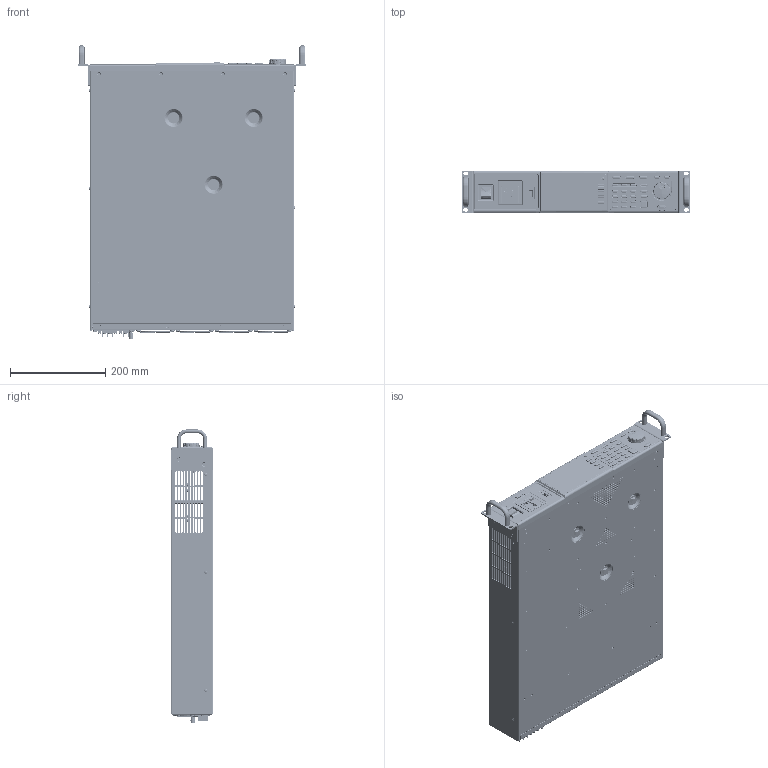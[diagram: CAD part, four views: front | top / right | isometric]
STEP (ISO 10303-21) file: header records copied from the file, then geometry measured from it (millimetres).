
FILE_DESCRIPTION((''),'2;1');
FILE_NAME('APS-1000W_ASM','2020-11-02T11:36:05',('benny_chen'),(''),'CREO PARAMETRIC BY PTC INC, 2019080','CREO PARAMETRIC BY PTC INC, 2019080','');
FILE_SCHEMA(('CONFIG_CONTROL_DESIGN'));
Products named in the file (89): ACSP_SKEL0001; ACSP_LO_SKEL0001; ACSP-LO-HP; S-M4-1_NUT; FH-M4-12; SO-M3-9; SO-M3-7; SO-M3-11; 62PS-710LO101-2_ASM; 62PS-710LO101-3; 62PS-710LO101-3_ASM; 62PS-710LO101-4; 62PS-710LO101-1_ASM; APS-DT-66-C11W-XX; APS7000-EMI_OUT_ASM; RJ-45; BNC-PCBTYPE-M; CONNECTOR_A-DIO-FS03; ECH350RM-04P; APS-PCB-ANALOG_ASM; 61PF-084220N1; APS-SCREW-M8XP1D25X80L; ACSP-LO-ASM_ASM; APS-1000W_FRONT_ASM_SKEL; ACSP-F-HP; SO-M3-3L; SO-M3-4; SO-M3-S5; 62PS-7K0FP1B1-4_ASM; APS-HP-SOCKET_RG-02; 62PS-7K0FP2B1-2_ASM; 62PS-7K0FP1B1-3; APS-HP-SOCKET-BSF-R4_T1; 62PS-7K0FP1B1-2_ASM; 62PS-7K0FP1B1-1_ASM; LCD-PH-07008-002; APS-LCD-HOLD-3; 62PS-7K0HP301_ASM; 57RG-20B04001; 57RG-20B03901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
Assembly tree (273 placements, depth 6):
  APS-1000W_ASM
    ACSP_SKEL0001
    ACSP-LO-ASM_ASM
      ACSP_LO_SKEL0001
      62PS-710LO101-1_ASM
        62PS-710LO101-2_ASM
          ACSP-LO-HP
          S-M4-1_NUT  x6
          FH-M4-12
          SO-M3-9  x12
          SO-M3-7  x8
          SO-M3-11  x8
        62PS-710LO101-3_ASM
          62PS-710LO101-3
        62PS-710LO101-4
      APS7000-EMI_OUT_ASM
        APS-DT-66-C11W-XX
      APS-PCB-ANALOG_ASM
        RJ-45
        BNC-PCBTYPE-M
        CONNECTOR_A-DIO-FS03
        ECH350RM-04P
      61PF-084220N1  x3
      APS-SCREW-M8XP1D25X80L  x3
    APS-1000W_FRONT_ASM_ASM
      APS-1000W_FRONT_ASM_SKEL
      APS-F_ASM
        62PS-7K0FP1B1-1_ASM
          62PS-7K0FP1B1-4_ASM
            ACSP-F-HP
            S-M4-1_NUT  x4
            SO-M3-3L  x2
            SO-M3-4  x10
            SO-M3-S5  x2
          62PS-7K0FP2B1-2_ASM
            APS-HP-SOCKET_RG-02
          62PS-7K0FP1B1-3
          62PS-7K0FP1B1-2_ASM
            APS-HP-SOCKET-BSF-R4_T1
        APS-1000W_LCD_ASM_ASM
          LCD-PH-07008-002
          62PS-7K0HP301_ASM
            APS-LCD-HOLD-3
          57RG-20B04001  x2
          57RG-20B03901  x2
        3610-02000101-GWT_ASM
          3610-02000101-BSF-R4S-FRAME
          3610-02000101-BSF-R4S
        APS-USB-GND-HP_ASM
          62PS-7K0HP101_ASM
            APS-HP-A116-1229-USB01
          FRP10  x2
          A116-1229-USB01
          SCREW-4-40-8D3L  x2
        3203-01200601
        PMS-3X6  x2
        PMS-W-3X6  x4
        BMS-W-3X8  x8
      63FP-AG112801_ASM
        APS-1000W_FRAME-A
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Bounding box: 479.4 x 87.94 x 614.7 mm (x, y, z)
Volume: 1557506.3 mm3; surface area: 2164197.3 mm2
Topology: 270 solids, 282 shells, 17708 faces, 44953 edges, 28401 vertices
Faces by surface type: plane 8489, cylinder 5570, bspline 1359, cone 1283, torus 633, sphere 232, extrusion 141, revolution 1
Entity records: 341441 total; most frequent: CARTESIAN_POINT 93536, DIRECTION 51535, ORIENTED_EDGE 50700, EDGE_CURVE 25397, AXIS2_PLACEMENT_3D 18313, VERTEX_POINT 16129, VECTOR 14908, LINE 14767
